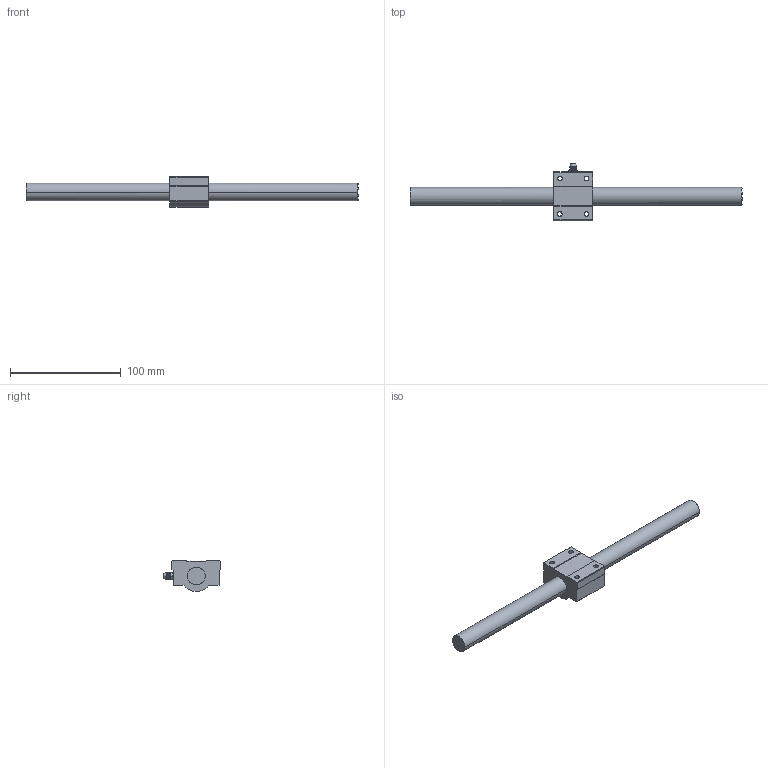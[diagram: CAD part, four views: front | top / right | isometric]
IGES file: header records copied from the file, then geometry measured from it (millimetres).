
Global section: file name: No Iges File Name specified; native system: AutoDesk Inventor R10; preprocessor: AutoDesk Inventor Iges Exporter R10; author: No Author specified; organization: No Organization specified; date: 20101224.145618; units: millimetre
Bounding box: 300 x 51.8 x 28 mm (x, y, z)
Surface area: 24832 mm2 (no closed solid volume)
Topology: 0 solids, 0 shells, 78 faces, 474 edges, 470 vertices
Faces by surface type: bspline 78
